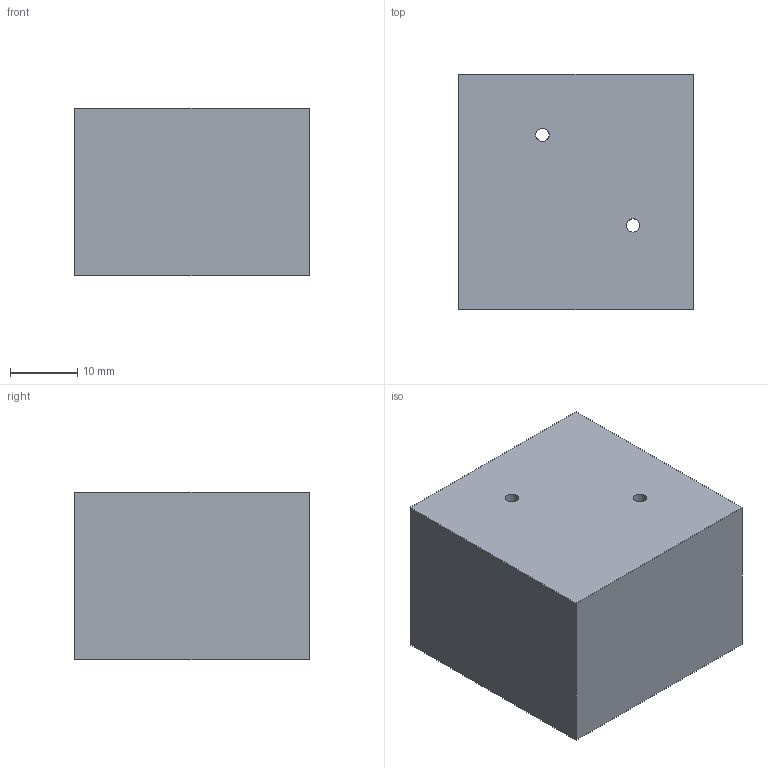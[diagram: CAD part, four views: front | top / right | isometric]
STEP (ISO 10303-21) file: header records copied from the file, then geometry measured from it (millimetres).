
FILE_DESCRIPTION (( 'STEP AP203' ), '1' );
FILE_NAME ('FT60ES04.STEP', '2026-06-26T01:14:40', ( 'USER' ), ( '' ), 'SwSTEP 2.0', 'SolidWorks 2023', '' );
FILE_SCHEMA (( 'CONFIG_CONTROL_DESIGN' ));
Length unit declared in the file: millimetre
Products named in the file (1): FT60ES04
Bounding box: 35 x 35 x 25 mm (x, y, z)
Volume: 26897 mm3; surface area: 7186 mm2
Topology: 1 solids, 1 shells, 40 faces, 95 edges, 55 vertices
Faces by surface type: cylinder 22, plane 10, cone 8
Entity records: 1346 total; most frequent: CARTESIAN_POINT 352, DIRECTION 192, ORIENTED_EDGE 190, EDGE_CURVE 95, AXIS2_PLACEMENT_3D 75, VERTEX_POINT 55, EDGE_LOOP 48, LINE 42
